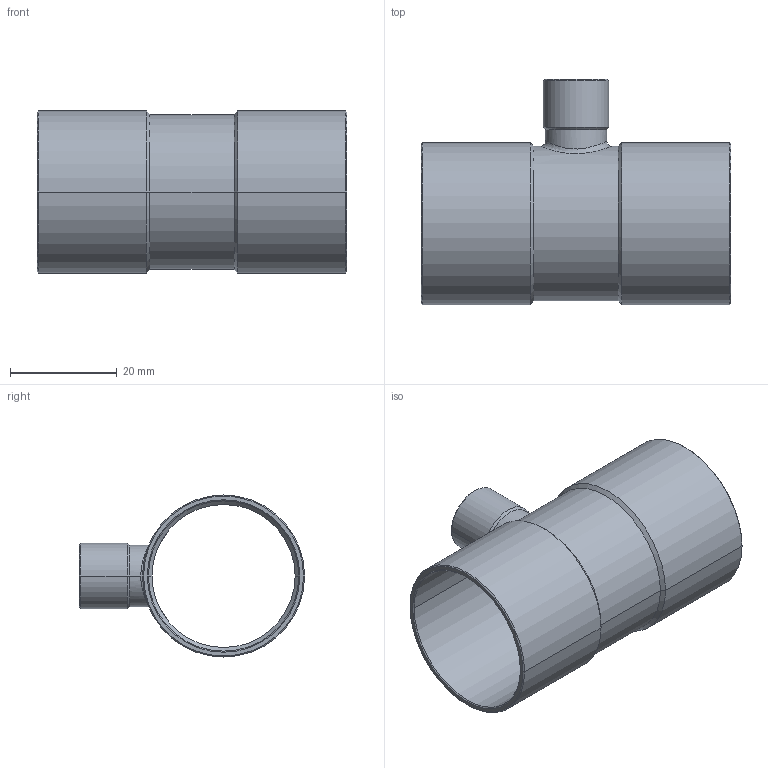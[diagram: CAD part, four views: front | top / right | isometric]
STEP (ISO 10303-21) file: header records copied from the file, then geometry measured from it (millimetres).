
FILE_DESCRIPTION((''),'2;1');
FILE_NAME('G:\Technics\CAD\Bauteile\15130\15130281028.stp','2005-11-02T10:19:43',('boden'),(''),'Autodesk Inventor 8','Autodesk Inventor 8','');
FILE_SCHEMA(('AUTOMOTIVE_DESIGN { 1 0 10303 214 1 1 1 1 }'));
Length unit declared in the file: millimetre
Products named in the file (1): 15130281028
Bounding box: 58 x 42.17 x 30.35 mm (x, y, z)
Volume: 6235.2 mm3; surface area: 11547.4 mm2
Topology: 1 solids, 1 shells, 49 faces, 108 edges, 60 vertices
Faces by surface type: cone 24, cylinder 20, plane 3, bspline 2
Entity records: 1611 total; most frequent: CARTESIAN_POINT 504, DIRECTION 242, ORIENTED_EDGE 216, EDGE_CURVE 108, AXIS2_PLACEMENT_3D 98, VERTEX_POINT 60, EDGE_LOOP 52, CIRCLE 50
